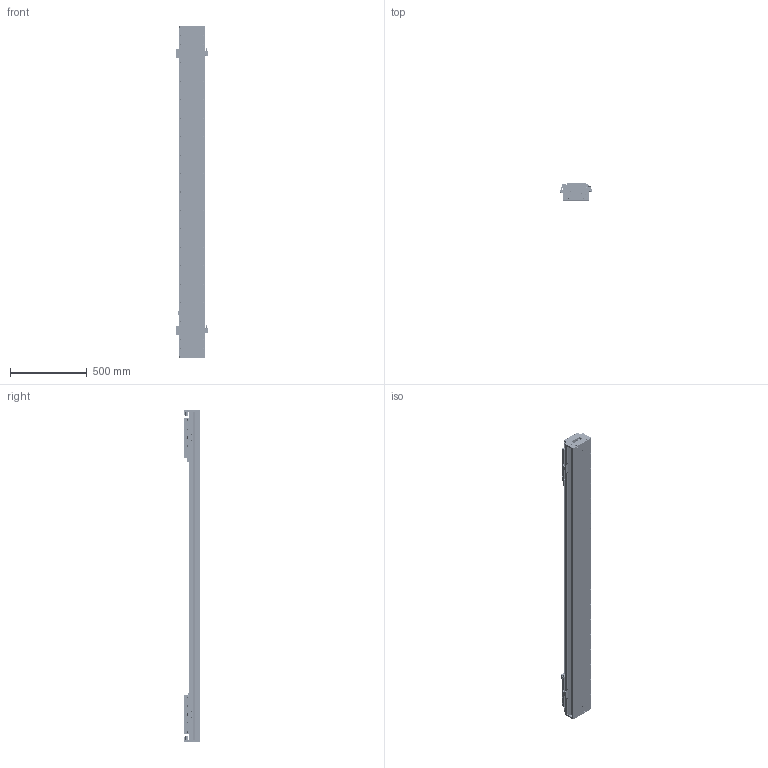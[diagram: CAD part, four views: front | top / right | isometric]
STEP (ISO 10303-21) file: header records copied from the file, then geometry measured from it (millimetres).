
FILE_DESCRIPTION (( 'STEP AP203' ), '1' );
FILE_NAME ('DKW168-2×C3-W090（T1520-L005-0.2）.STEP', '2022-03-08T05:51:54', ( '微软用户' ), ( '微软中国' ), 'SwSTEP 2.0', 'SolidWorks 2018', '' );
FILE_SCHEMA (( 'CONFIG_CONTROL_DESIGN' ));
Length unit declared in the file: millimetre
Products named in the file (28): DKW-KGZ-ZJ-00 中间光电开关支架; Ru2; 10392-0001-002-00 詩湍裔啣; MSB20S1FC; EE_SX674A; pm-y65; 10392-0001-003-00 詩湍嶺輸; CKM03-W090-C1C2-TP-0.2 珨极萇儂; DKW168-2×C3-W090（T1520-L005-0.2）; 10980-0001-003-00 嫖萇羲壽嘐隅釱; 10392-0001-004-00 詩湍揤輸; DKW168-HYB-00 賑輸揤啣; 嫖萇羲壽蚾饜极; 10279-0001-006-00 嶺輸菜輸; C3-W090; DKW-SG-GYP-H-00 嫖萇覜茼え; DKW168 单轴模组-拉钢带组件; 10392-0001-001-00 菁釱; 嫖萇羲壽蚾饜极A; CKM01-W090-TRL280; MSA20絳寢; DKW168-HXJ-ZJ-00 笢潔滅袉砎蝶; DKW168-RU-DTJ-00 RU2黍杅芛盓殤; 10279-0001-003-00 傷啣; DKW-GYP-ZJ-00 笢潔嫖萇覜茼え; RUS嫖掑喜; DKW168-HXJ-00 遣喳砎蝶; DKW168-C3-W090-HTB-04 C3-W090賑怢啣
Assembly tree (47 placements, depth 3):
  DKW168-2×C3-W090（T1520-L005-0.2）
    C3-W090  x2
      DKW168-C3-W090-HTB-04 C3-W090賑怢啣
      MSB20S1FC
      CKM03-W090-C1C2-TP-0.2 珨极萇儂
      DKW168-HYB-00 賑輸揤啣
    10392-0001-001-00 菁釱
    MSA20絳寢  x2
    DKW168 单轴模组-拉钢带组件
      10279-0001-003-00 傷啣  x2
      DKW168-HXJ-00 遣喳砎蝶  x4
      10392-0001-002-00 詩湍裔啣
      10392-0001-003-00 詩湍嶺輸  x2
      10392-0001-004-00 詩湍揤輸  x2
      10279-0001-006-00 嶺輸菜輸  x2
    CKM01-W090-TRL280
    DKW168-RU-DTJ-00 RU2黍杅芛盓殤  x2
    RUS嫖掑喜
    Ru2  x2
    嫖萇羲壽蚾饜极
      pm-y65  x2
      10980-0001-003-00 嫖萇羲壽嘐隅釱
    DKW-SG-GYP-H-00 嫖萇覜茼え  x2
    嫖萇羲壽蚾饜极A
      pm-y65  x2
      10980-0001-003-00 嫖萇羲壽嘐隅釱
    DKW168-HXJ-ZJ-00 笢潔滅袉砎蝶
    DKW-GYP-ZJ-00 笢潔嫖萇覜茼え
    DKW-KGZ-ZJ-00 中间光电开关支架
    EE_SX674A
Bounding box: 202.1 x 109 x 2160 mm (x, y, z)
Volume: 15960948.4 mm3; surface area: 4113845.5 mm2
Topology: 74 solids, 172 shells, 7828 faces, 20352 edges, 12951 vertices
Faces by surface type: plane 4086, cylinder 2268, cone 852, bspline 558, torus 32, sphere 32
Entity records: 125151 total; most frequent: CARTESIAN_POINT 41532, ORIENTED_EDGE 16713, DIRECTION 16004, EDGE_CURVE 8397, VERTEX_POINT 5474, AXIS2_PLACEMENT_3D 5431, LINE 5142, VECTOR 5142
